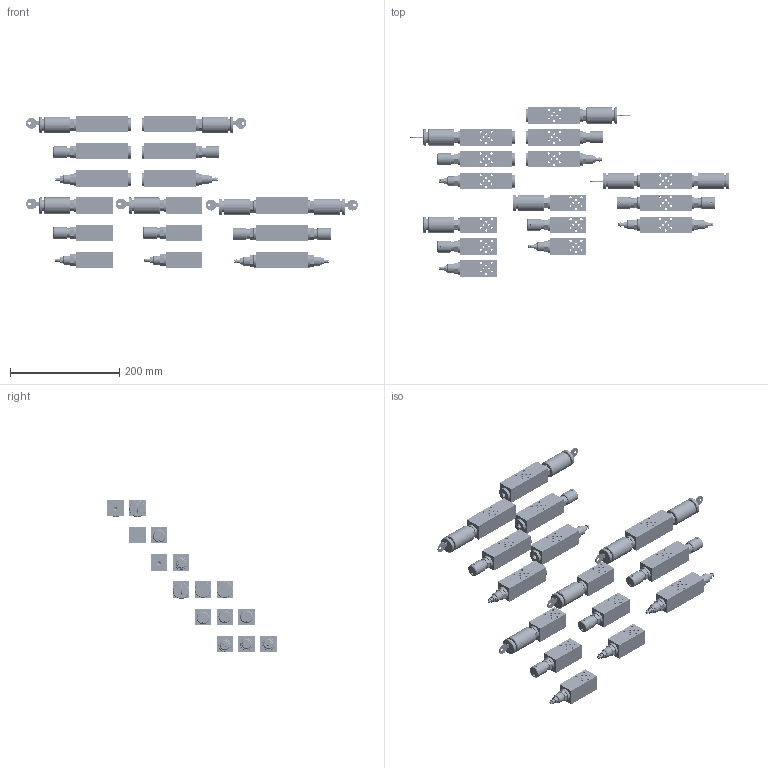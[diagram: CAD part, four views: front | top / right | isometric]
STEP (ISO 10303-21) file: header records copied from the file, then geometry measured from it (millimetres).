
FILE_DESCRIPTION(('Bauteilbeschreibung','HiCAD-Model','HiCAD-STEP-TRANSLATION','Bauteilbeschreibung'),'2;1');
FILE_NAME('C:/_EIGENE_DATEN/DXF_STEP/DN_SA03_3808.STP','2008-09-15T14:04:34+00:00',('Konstrukteur'),('Konstrukteur Firma GmbH'),' HiCAD neXt 2007, Step 3.1.1212.3C ','HiCAD neXt 2007','confidential');
FILE_SCHEMA(('AUTOMOTIVE_DESIGN { 1 2 10303 214 0 1 1 1 }'));
Products named in the file (181): DN_SA03_3808; DNSSA03_P; A3C596B7; C837927D; C837927D0; DIN_76; A72665EB; D8311F80; A4FCE782; SCHEIBE; SECHSKANTMUTTER; SICHERUNGSSCHEIBE; DNDSA03_P; ADAD0E6F; C837927D1; C837927D2; DIN076; A7FA097F; D8311F800; ABA931BA; DNKSA03_P; A8690360; C837927D3; C837927D4; DIN0760; D7F25E55; D8311F801; AE089486; DNSSA03_T; B56E8E82; C837927D5; C837927D6; DIN0761; A72665EB0; D8311F802; A4FCE7820; SCHEIBE0; SECHSKANTMUTTER0; SICHERUNGSSCHEIBE0; DNDSA03_T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
Assembly tree (180 placements, depth 6):
  DN_SA03_3808
    DNSSA03_P
      A3C596B7
        C837927D
        C837927D0
          DIN_76
        A72665EB
          D8311F80
          A4FCE782
            SCHEIBE
            SECHSKANTMUTTER
            SICHERUNGSSCHEIBE
    DNDSA03_P
      ADAD0E6F
        C837927D1
        C837927D2
          DIN076
        A7FA097F
          D8311F800
          ABA931BA
    DNKSA03_P
      A8690360
        C837927D3
        C837927D4
          DIN0760
        D7F25E55
          D8311F801
          AE089486
    DNSSA03_T
      B56E8E82
        C837927D5
        C837927D6
          DIN0761
        A72665EB0
          D8311F802
          A4FCE7820
            SCHEIBE0
            SECHSKANTMUTTER0
            SICHERUNGSSCHEIBE0
    DNDSA03_T
      A40BF932
        C837927D7
        C837927D8
          DIN0762
        A7FA097F0
          D8311F803
          ABA931BA0
    DNKSA03_T
      A8CF7B5D
        C837927D9
        C837927D10
          DIN0763
        D7F25E550
          D8311F804
          AE0894860
    DNSSA03_AB
      A0926620
        A72665EB1
          D8311F805
          A4FCE7821
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Bounding box: 608.8 x 310 x 280 mm (x, y, z)
Volume: 1422507.2 mm3; surface area: 474742.9 mm2
Topology: 105 solids, 105 shells, 2784 faces, 6566 edges, 4267 vertices
Faces by surface type: cylinder 1095, plane 903, cone 606, torus 180
Full cylindrical faces by diameter (mm): 3 x108, 3.5 x75, 4 x30, 4.2 x45, 4.4 x18, 5 x6, 5.9 x36, 6 x30, 6.4 x6, 6.9 x75, 8 x6, 8.5 x6, 12 x6, 12.1 x18, 13 x18, 15 x60, 16 x24, 16.01 x6, 16.16 x12, 16.3 x18, 16.5 x48, 17 x24, 17.5 x6, 18 x72, 19.11 x6, 21 x6, 22 x6, 23 x18, 23.9 x6, 29 x6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
Entity records: 122315 total; most frequent: CARTESIAN_POINT 64406, DIRECTION 12300, ORIENTED_EDGE 8424, AXIS2_PLACEMENT_3D 5568, EDGE_LOOP 4980, EDGE_CURVE 4212, VERTEX_POINT 3474, ADVANCED_FACE 2784
